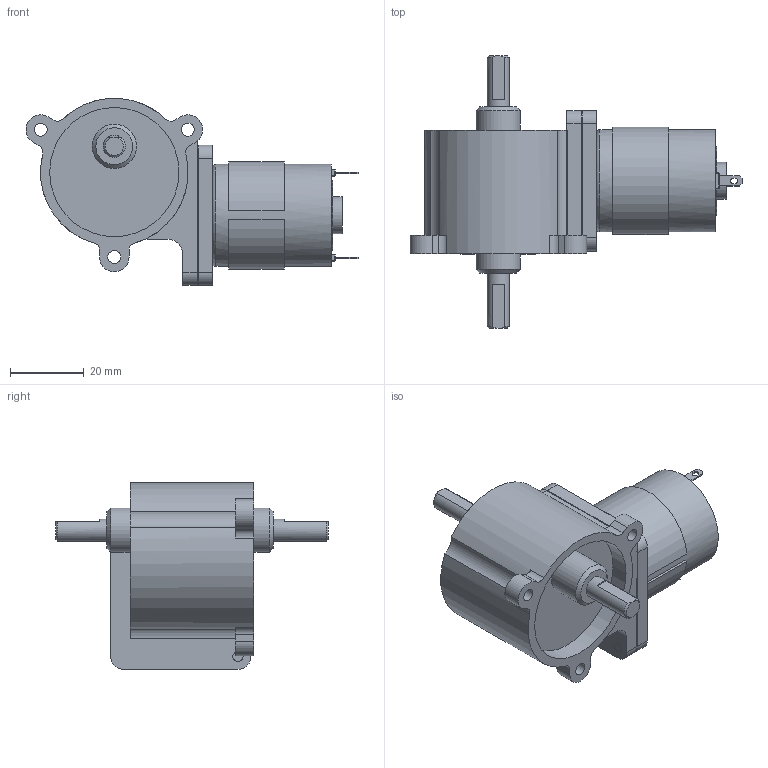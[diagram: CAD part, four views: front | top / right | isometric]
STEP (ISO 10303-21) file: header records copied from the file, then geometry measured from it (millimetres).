
FILE_DESCRIPTION(/* description */ (''),/* implementation_level */ '2;1');
FILE_NAME(/* name */ 'TP-2932#-KWR.stp',/* time_stamp */ '2023-12-11T17:37:00+09:00',/* author */ ('user'),/* organization */ (''),/* preprocessor_version */ 'ST-DEVELOPER v19.2',/* originating_system */ 'Autodesk Inventor 2024',/* authorisation */ '');
FILE_SCHEMA (('AUTOMOTIVE_DESIGN { 1 0 10303 214 3 1 1 }'));
Length unit declared in the file: millimetre
Products named in the file (3): TP-2932#-KWR-J00-24; kwr; TP-2932#(RS-365PH)
Assembly tree (2 placements, depth 2):
  TP-2932#-KWR-J00-24
    kwr
    TP-2932#(RS-365PH)
Bounding box: 89.92 x 73.9 x 50.63 mm (x, y, z)
Volume: 73052.7 mm3; surface area: 16464 mm2
Topology: 2 solids, 2 shells, 203 faces, 463 edges, 298 vertices
Faces by surface type: plane 118, cylinder 73, cone 8, torus 4
Full cylindrical faces by diameter (mm): 2 x3, 2.113 x2, 2.3 x2, 2.5 x5, 2.75 x2, 3.5 x3, 6 x4, 9 x2, 10 x3, 12 x2, 19 x1, 26.7 x1, 27.7 x1, 35 x1
Entity records: 5952 total; most frequent: DIRECTION 1052, CARTESIAN_POINT 975, ORIENTED_EDGE 922, EDGE_CURVE 461, AXIS2_PLACEMENT_3D 387, VERTEX_POINT 298, LINE 278, VECTOR 278
